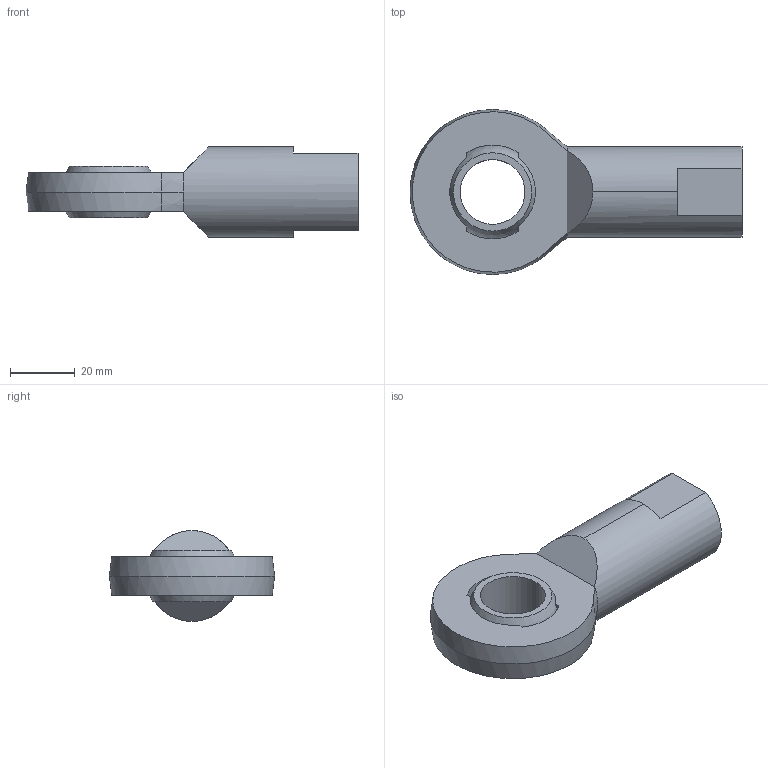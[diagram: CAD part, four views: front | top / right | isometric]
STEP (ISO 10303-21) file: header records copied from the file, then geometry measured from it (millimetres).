
FILE_DESCRIPTION (( 'STEP AP203' ), '1' );
FILE_NAME ('65880.W0120.step', '2014-02-06T18:35:42', ( 'User' ), ( '' ), 'SwSTEP 2.0', 'SolidWorks 2009', '' );
FILE_SCHEMA (( 'CONFIG_CONTROL_DESIGN' ));
Length unit declared in the file: millimetre
Products named in the file (3): 65880.W0120; Part1_65880.W0120; Part2_65880.W0120
Assembly tree (2 placements, depth 2):
  65880.W0120
    Part2_65880.W0120
    Part1_65880.W0120
Bounding box: 102.5 x 51 x 28 mm (x, y, z)
Volume: 39891.2 mm3; surface area: 15890.6 mm2
Topology: 2 solids, 2 shells, 45 faces, 108 edges, 67 vertices
Faces by surface type: plane 20, cylinder 10, sphere 8, cone 7
Entity records: 1620 total; most frequent: DIRECTION 253, CARTESIAN_POINT 249, ORIENTED_EDGE 208, AXIS2_PLACEMENT_3D 107, EDGE_CURVE 104, VERTEX_POINT 67, CIRCLE 57, EDGE_LOOP 53
